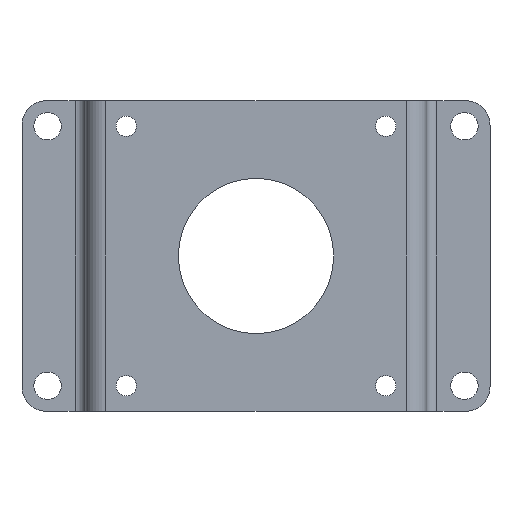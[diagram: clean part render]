
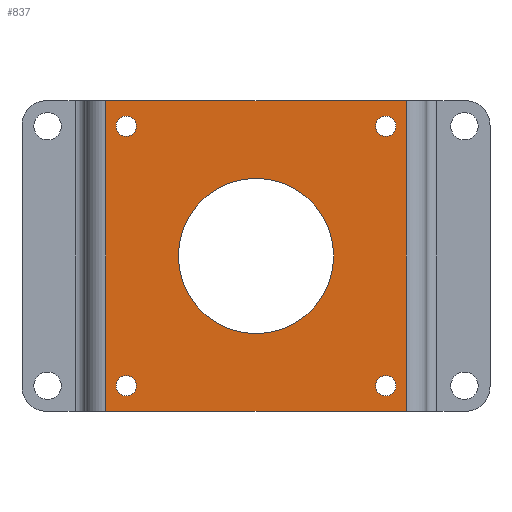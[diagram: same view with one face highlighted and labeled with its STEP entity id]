
A CAD part, front view. The second image highlights one B-rep face of the part: STEP entity #837.
In plain terms, the highlighted planar face has unit normal (0, -1, 0).
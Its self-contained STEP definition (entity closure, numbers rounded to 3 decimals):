
#21=FACE_BOUND('',#155,.T.);
#22=FACE_BOUND('',#156,.T.);
#23=FACE_BOUND('',#157,.T.);
#24=FACE_BOUND('',#158,.T.);
#25=FACE_BOUND('',#159,.T.);
#50=PLANE('',#936);
#97=FACE_OUTER_BOUND('',#154,.T.);
#154=EDGE_LOOP('',(#700,#701,#702,#703));
#155=EDGE_LOOP('',(#704));
#156=EDGE_LOOP('',(#705));
#157=EDGE_LOOP('',(#706));
#158=EDGE_LOOP('',(#707));
#159=EDGE_LOOP('',(#708));
#228=LINE('',#1379,#301);
#234=LINE('',#1397,#307);
#237=LINE('',#1403,#310);
#238=LINE('',#1404,#311);
#301=VECTOR('',#1126,10.);
#307=VECTOR('',#1150,10.);
#310=VECTOR('',#1155,10.);
#311=VECTOR('',#1156,10.);
#342=CIRCLE('',#892,2.5);
#344=CIRCLE('',#895,2.5);
#347=CIRCLE('',#900,2.5);
#350=CIRCLE('',#905,2.5);
#353=CIRCLE('',#910,19.);
#399=VERTEX_POINT('',#1298);
#401=VERTEX_POINT('',#1304);
#404=VERTEX_POINT('',#1314);
#407=VERTEX_POINT('',#1324);
#410=VERTEX_POINT('',#1334);
#421=VERTEX_POINT('',#1376);
#422=VERTEX_POINT('',#1378);
#425=VERTEX_POINT('',#1396);
#427=VERTEX_POINT('',#1402);
#474=EDGE_CURVE('',#399,#399,#342,.T.);
#477=EDGE_CURVE('',#401,#401,#344,.T.);
#482=EDGE_CURVE('',#404,#404,#347,.T.);
#487=EDGE_CURVE('',#407,#407,#350,.T.);
#492=EDGE_CURVE('',#410,#410,#353,.T.);
#513=EDGE_CURVE('',#422,#421,#228,.T.);
#522=EDGE_CURVE('',#425,#422,#234,.T.);
#525=EDGE_CURVE('',#421,#427,#237,.T.);
#526=EDGE_CURVE('',#427,#425,#238,.T.);
#700=ORIENTED_EDGE('',*,*,#513,.T.);
#701=ORIENTED_EDGE('',*,*,#525,.T.);
#702=ORIENTED_EDGE('',*,*,#526,.T.);
#703=ORIENTED_EDGE('',*,*,#522,.T.);
#704=ORIENTED_EDGE('',*,*,#474,.T.);
#705=ORIENTED_EDGE('',*,*,#477,.T.);
#706=ORIENTED_EDGE('',*,*,#482,.T.);
#707=ORIENTED_EDGE('',*,*,#487,.T.);
#708=ORIENTED_EDGE('',*,*,#492,.T.);
#837=ADVANCED_FACE('',(#97,#21,#22,#23,#24,#25),#50,.F.);
#892=AXIS2_PLACEMENT_3D('',#1300,#1035,#1036);
#895=AXIS2_PLACEMENT_3D('',#1306,#1042,#1043);
#900=AXIS2_PLACEMENT_3D('',#1316,#1054,#1055);
#905=AXIS2_PLACEMENT_3D('',#1326,#1066,#1067);
#910=AXIS2_PLACEMENT_3D('',#1336,#1078,#1079);
#936=AXIS2_PLACEMENT_3D('',#1401,#1153,#1154);
#1035=DIRECTION('center_axis',(0.,1.,0.));
#1036=DIRECTION('ref_axis',(-1.,0.,0.));
#1042=DIRECTION('center_axis',(0.,1.,0.));
#1043=DIRECTION('ref_axis',(-1.,0.,0.));
#1054=DIRECTION('center_axis',(0.,1.,0.));
#1055=DIRECTION('ref_axis',(-1.,0.,0.));
#1066=DIRECTION('center_axis',(0.,1.,0.));
#1067=DIRECTION('ref_axis',(-1.,0.,0.));
#1078=DIRECTION('center_axis',(0.,1.,0.));
#1079=DIRECTION('ref_axis',(-1.,0.,0.));
#1126=DIRECTION('',(0.,0.,-1.));
#1150=DIRECTION('',(-1.,0.,0.));
#1153=DIRECTION('center_axis',(0.,1.,0.));
#1154=DIRECTION('ref_axis',(1.,0.,0.));
#1155=DIRECTION('',(1.,0.,0.));
#1156=DIRECTION('',(0.,0.,1.));
#1298=CARTESIAN_POINT('',(-29.25,0.,-31.75));
#1300=CARTESIAN_POINT('Origin',(-31.75,0.,-31.75));
#1304=CARTESIAN_POINT('',(34.25,0.,-31.75));
#1306=CARTESIAN_POINT('Origin',(31.75,0.,-31.75));
#1314=CARTESIAN_POINT('',(-29.25,0.,31.75));
#1316=CARTESIAN_POINT('Origin',(-31.75,0.,31.75));
#1324=CARTESIAN_POINT('',(34.25,0.,31.75));
#1326=CARTESIAN_POINT('Origin',(31.75,0.,31.75));
#1334=CARTESIAN_POINT('',(19.,0.,0.));
#1336=CARTESIAN_POINT('Origin',(0.,0.,0.));
#1376=CARTESIAN_POINT('',(-36.75,0.,-38.));
#1378=CARTESIAN_POINT('',(-36.75,0.,38.));
#1379=CARTESIAN_POINT('',(-36.75,0.,-19.));
#1396=CARTESIAN_POINT('',(36.75,0.,38.));
#1397=CARTESIAN_POINT('',(41.75,0.,38.));
#1401=CARTESIAN_POINT('Origin',(0.,0.,0.));
#1402=CARTESIAN_POINT('',(36.75,0.,-38.));
#1403=CARTESIAN_POINT('',(-41.75,0.,-38.));
#1404=CARTESIAN_POINT('',(36.75,0.,19.));
